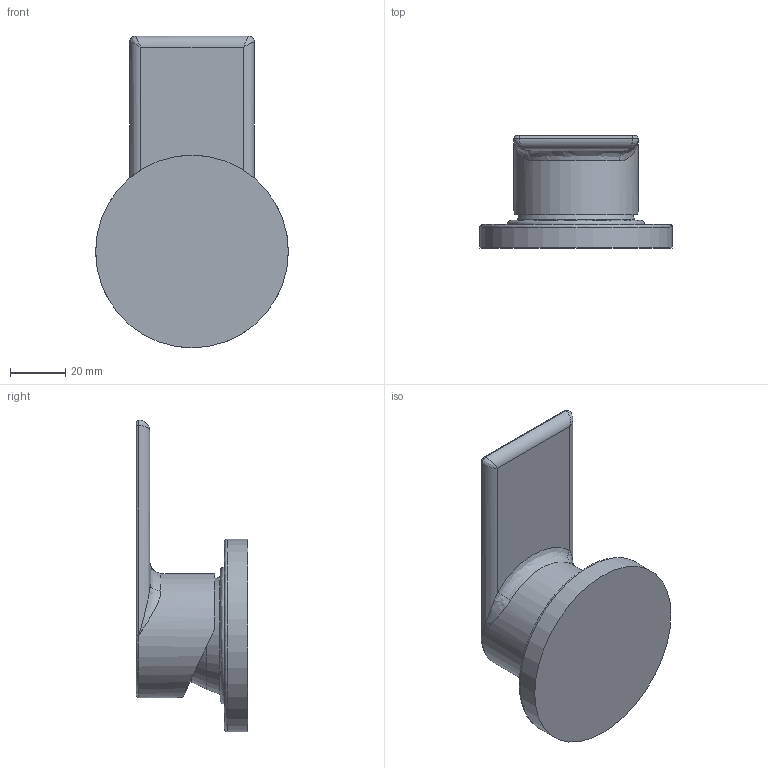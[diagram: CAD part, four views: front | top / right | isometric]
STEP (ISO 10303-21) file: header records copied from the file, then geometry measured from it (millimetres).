
FILE_DESCRIPTION (( 'STEP AP203' ), '1' );
FILE_NAME ('802178 x architetti.STEP', '2023-07-03T15:23:27', ( '' ), ( '' ), 'SwSTEP 2.0', 'SolidWorks 2020', '' );
FILE_SCHEMA (( 'CONFIG_CONTROL_DESIGN' ));
Length unit declared in the file: millimetre
Products named in the file (1): 802178 x architetti
Bounding box: 69.8 x 40.5 x 112.9 mm (x, y, z)
Volume: 90428.2 mm3; surface area: 26290.4 mm2
Topology: 1 solids, 3 shells, 72 faces, 186 edges, 118 vertices
Faces by surface type: plane 26, cylinder 21, bspline 12, cone 11, torus 2
Full cylindrical faces by diameter (mm): 33.725 x3, 34 x1, 35 x1, 37.8 x1, 41 x1, 42 x1, 42.4 x1, 45 x1, 49.8 x1, 50.6 x1, 69.8 x1
Entity records: 3376 total; most frequent: CARTESIAN_POINT 1768, ORIENTED_EDGE 300, DIRECTION 297, EDGE_CURVE 150, AXIS2_PLACEMENT_3D 128, EDGE_LOOP 112, VERTEX_POINT 108, FACE_OUTER_BOUND 89
